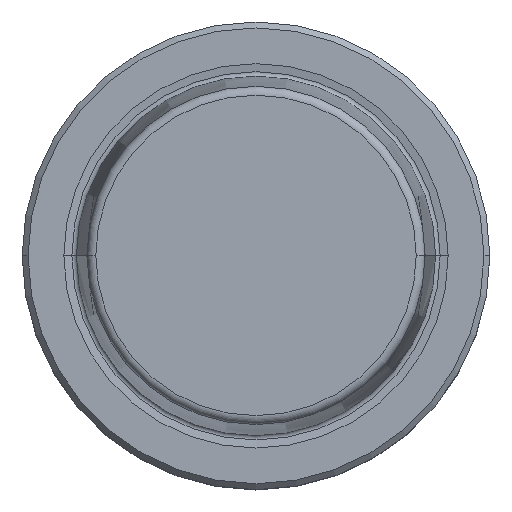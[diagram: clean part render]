
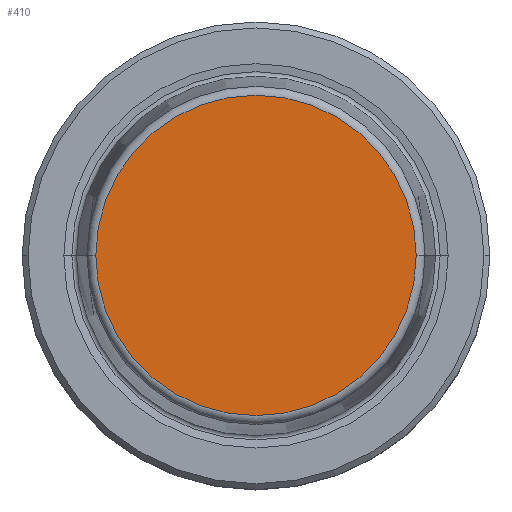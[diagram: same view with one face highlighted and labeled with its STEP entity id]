
A CAD part, top view. The second image highlights one B-rep face of the part: STEP entity #410.
In plain terms, the highlighted planar face has unit normal (0, 0, 1).
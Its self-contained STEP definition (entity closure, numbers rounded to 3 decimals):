
#94 = FACE_OUTER_BOUND ( 'NONE', #265, .T. ) ;
#102 = VERTEX_POINT ( 'NONE', #210 ) ;
#113 = AXIS2_PLACEMENT_3D ( 'NONE', #1080, #288, #1208 ) ;
#210 = CARTESIAN_POINT ( 'NONE',  ( 21.581, 0., 32.091 ) ) ;
#265 = EDGE_LOOP ( 'NONE', ( #1585, #1075 ) ) ;
#273 = DIRECTION ( 'NONE',  ( 0., 0., 1. ) ) ;
#288 = DIRECTION ( 'NONE',  ( 0., 0., -1. ) ) ;
#410 = ADVANCED_FACE ( 'NONE', ( #94 ), #1618, .F. ) ;
#672 = VERTEX_POINT ( 'NONE', #1196 ) ;
#769 = DIRECTION ( 'NONE',  ( 0., 0., 1. ) ) ;
#770 = CIRCLE ( 'NONE', #1452, 21.581 ) ;
#887 = AXIS2_PLACEMENT_3D ( 'NONE', #1066, #273, #1675 ) ;
#994 = CIRCLE ( 'NONE', #887, 21.581 ) ;
#1066 = CARTESIAN_POINT ( 'NONE',  ( 0., 0., 32.091 ) ) ;
#1075 = ORIENTED_EDGE ( 'NONE', *, *, #1536, .T. ) ;
#1080 = CARTESIAN_POINT ( 'NONE',  ( 0., 0., 32.091 ) ) ;
#1196 = CARTESIAN_POINT ( 'NONE',  ( -21.581, 0., 32.091 ) ) ;
#1208 = DIRECTION ( 'NONE',  ( -1., 0., 0. ) ) ;
#1452 = AXIS2_PLACEMENT_3D ( 'NONE', #1539, #769, #1673 ) ;
#1536 = EDGE_CURVE ( 'NONE', #672, #102, #770, .T. ) ;
#1539 = CARTESIAN_POINT ( 'NONE',  ( 0., 0., 32.091 ) ) ;
#1585 = ORIENTED_EDGE ( 'NONE', *, *, #1682, .T. ) ;
#1618 = PLANE ( 'NONE',  #113 ) ;
#1673 = DIRECTION ( 'NONE',  ( 1., 0., 0. ) ) ;
#1675 = DIRECTION ( 'NONE',  ( 1., 0., 0. ) ) ;
#1682 = EDGE_CURVE ( 'NONE', #102, #672, #994, .T. ) ;
